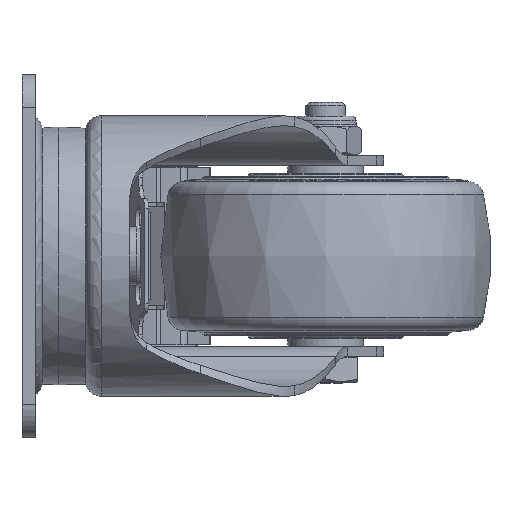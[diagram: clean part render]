
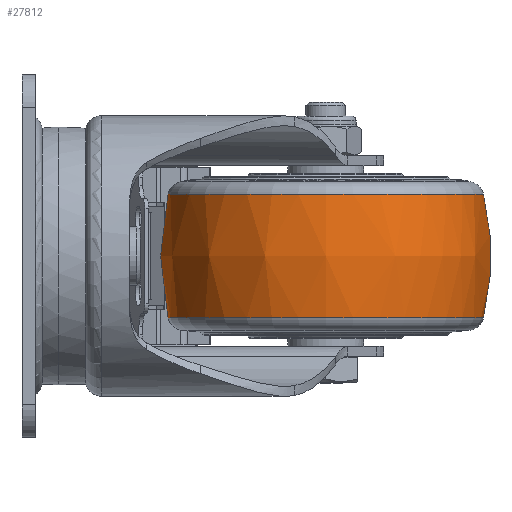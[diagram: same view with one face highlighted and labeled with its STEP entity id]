
A CAD part, left-side view. The second image highlights one B-rep face of the part: STEP entity #27812.
In plain terms, the highlighted free-form (B-spline) face has degree [2, 2] with [3, 9] control points.
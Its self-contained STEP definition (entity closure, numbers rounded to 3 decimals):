
#58=(
BOUNDED_SURFACE()
B_SPLINE_SURFACE(2,2,((#43851,#43852,#43853,#43854,#43855,#43856,#43857,
#43858,#43859),(#43860,#43861,#43862,#43863,#43864,#43865,#43866,#43867,
#43868),(#43869,#43870,#43871,#43872,#43873,#43874,#43875,#43876,#43877)),
 .UNSPECIFIED.,.F.,.T.,.F.)
B_SPLINE_SURFACE_WITH_KNOTS((3,3),(3,2,2,2,3),(-0.236,0.236),
(-3.142,-1.571,0.,1.571,3.142),
 .UNSPECIFIED.)
GEOMETRIC_REPRESENTATION_ITEM()
RATIONAL_B_SPLINE_SURFACE(((1.,0.707,1.,0.707,1.,
0.707,1.,0.707,1.),(0.972,0.687,
0.972,0.687,0.972,0.687,
0.972,0.687,0.972),(1.,0.707,
1.,0.707,1.,0.707,1.,0.707,1.)))
REPRESENTATION_ITEM('')
SURFACE()
);
#6423=FACE_OUTER_BOUND('',#8074,.T.);
#8074=EDGE_LOOP('',(#20140,#20141,#20142,#20143));
#9497=CIRCLE('',#29387,47.779);
#9499=CIRCLE('',#29389,47.779);
#9500=CIRCLE('',#29390,80.);
#11794=VERTEX_POINT('',#43848);
#11795=VERTEX_POINT('',#43878);
#14919=EDGE_CURVE('',#11794,#11794,#9497,.T.);
#14921=EDGE_CURVE('',#11795,#11795,#9499,.T.);
#14922=EDGE_CURVE('',#11795,#11794,#9500,.T.);
#20140=ORIENTED_EDGE('',*,*,#14921,.F.);
#20141=ORIENTED_EDGE('',*,*,#14922,.T.);
#20142=ORIENTED_EDGE('',*,*,#14919,.T.);
#20143=ORIENTED_EDGE('',*,*,#14922,.F.);
#27812=ADVANCED_FACE('',(#6423),#58,.F.);
#29387=AXIS2_PLACEMENT_3D('',#43849,#31897,#31898);
#29389=AXIS2_PLACEMENT_3D('',#43879,#31901,#31902);
#29390=AXIS2_PLACEMENT_3D('',#43880,#31903,#31904);
#31897=DIRECTION('center_axis',(0.,0.,
1.));
#31898=DIRECTION('ref_axis',(0.,1.,0.));
#31901=DIRECTION('center_axis',(0.,0.,
1.));
#31902=DIRECTION('ref_axis',(0.,1.,0.));
#31903=DIRECTION('center_axis',(1.,0.,0.));
#31904=DIRECTION('ref_axis',(0.,-1.,0.));
#43848=CARTESIAN_POINT('',(57.5,-139.78,-18.721));
#43849=CARTESIAN_POINT('Origin',(57.5,-92.001,-18.721));
#43851=CARTESIAN_POINT('Ctrl Pts',(57.5,-139.78,-18.721));
#43852=CARTESIAN_POINT('Ctrl Pts',(105.279,-139.78,-18.721));
#43853=CARTESIAN_POINT('Ctrl Pts',(105.279,-92.001,-18.721));
#43854=CARTESIAN_POINT('Ctrl Pts',(105.279,-44.223,-18.721));
#43855=CARTESIAN_POINT('Ctrl Pts',(57.5,-44.223,-18.721));
#43856=CARTESIAN_POINT('Ctrl Pts',(9.721,-44.223,-18.721));
#43857=CARTESIAN_POINT('Ctrl Pts',(9.721,-92.001,-18.721));
#43858=CARTESIAN_POINT('Ctrl Pts',(9.721,-139.78,-18.721));
#43859=CARTESIAN_POINT('Ctrl Pts',(57.5,-139.78,-18.721));
#43860=CARTESIAN_POINT('Ctrl Pts',(57.5,-144.286,0.));
#43861=CARTESIAN_POINT('Ctrl Pts',(109.785,-144.286,0.));
#43862=CARTESIAN_POINT('Ctrl Pts',(109.785,-92.001,0.));
#43863=CARTESIAN_POINT('Ctrl Pts',(109.785,-39.717,0.));
#43864=CARTESIAN_POINT('Ctrl Pts',(57.5,-39.717,0.));
#43865=CARTESIAN_POINT('Ctrl Pts',(5.215,-39.717,0.));
#43866=CARTESIAN_POINT('Ctrl Pts',(5.215,-92.001,0.));
#43867=CARTESIAN_POINT('Ctrl Pts',(5.215,-144.286,0.));
#43868=CARTESIAN_POINT('Ctrl Pts',(57.5,-144.286,0.));
#43869=CARTESIAN_POINT('Ctrl Pts',(57.5,-139.78,18.721));
#43870=CARTESIAN_POINT('Ctrl Pts',(105.279,-139.78,18.721));
#43871=CARTESIAN_POINT('Ctrl Pts',(105.279,-92.001,18.721));
#43872=CARTESIAN_POINT('Ctrl Pts',(105.279,-44.223,18.721));
#43873=CARTESIAN_POINT('Ctrl Pts',(57.5,-44.223,18.721));
#43874=CARTESIAN_POINT('Ctrl Pts',(9.721,-44.223,18.721));
#43875=CARTESIAN_POINT('Ctrl Pts',(9.721,-92.001,18.721));
#43876=CARTESIAN_POINT('Ctrl Pts',(9.721,-139.78,18.721));
#43877=CARTESIAN_POINT('Ctrl Pts',(57.5,-139.78,18.721));
#43878=CARTESIAN_POINT('',(57.5,-139.78,18.721));
#43879=CARTESIAN_POINT('Origin',(57.5,-92.001,18.721));
#43880=CARTESIAN_POINT('Origin',(57.5,-62.001,0.));
